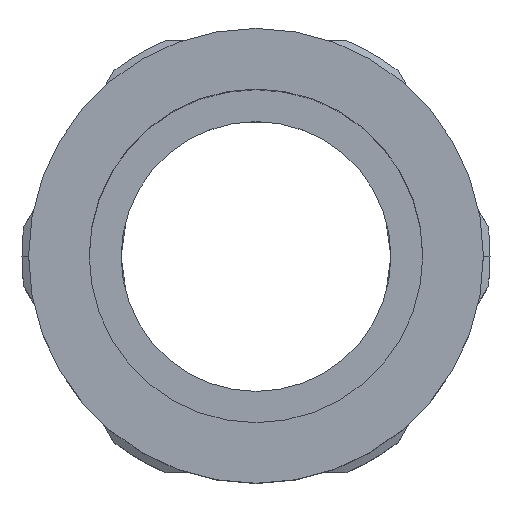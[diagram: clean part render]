
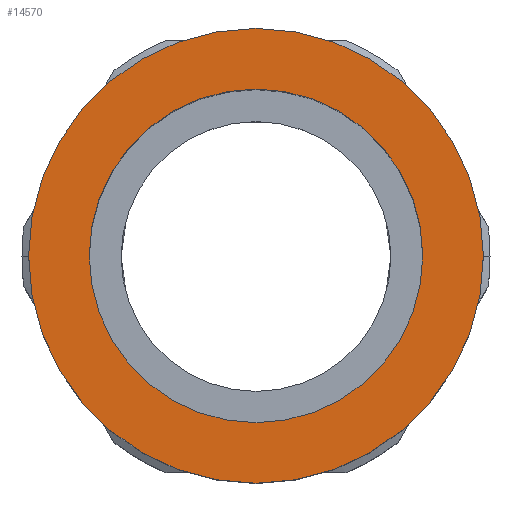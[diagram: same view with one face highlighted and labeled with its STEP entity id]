
A CAD part, top view. The second image highlights one B-rep face of the part: STEP entity #14570.
In plain terms, the highlighted planar face has unit normal (0, 0, 1) as drawn and (-1, 0, 0) by its records, which use the part's own axes.
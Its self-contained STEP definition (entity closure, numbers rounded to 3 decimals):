
#10130=CARTESIAN_POINT('',(-41.434,-18.95,0.
));
#10140=VERTEX_POINT('',#10130);
#10360=CARTESIAN_POINT('',(-41.434,18.95,0.)
);
#10370=VERTEX_POINT('',#10360);
#10400=CARTESIAN_POINT('',(-41.434,0.,
0.));
#10410=DIRECTION('',(1.,0.,0.));
#10420=DIRECTION('',(0.,-1.,0.));
#10430=AXIS2_PLACEMENT_3D('',#10400,#10410,#10420);
#10440=CIRCLE('',#10430,18.95);
#10450=CARTESIAN_POINT('',(-41.434,0.,
-18.95));
#10460=VERTEX_POINT('',#10450);
#10470=EDGE_CURVE('',#10460,#10370,#10440,.T.);
#10490=EDGE_CURVE('',#10140,#10460,#10440,.T.);
#14310=CARTESIAN_POINT('',(-41.434,17.675,0.
));
#14320=DIRECTION('',(-1.,0.,0.));
#14330=DIRECTION('',(0.,1.,0.));
#14340=AXIS2_PLACEMENT_3D('',#14310,#14320,#14330);
#14350=PLANE('',#14340);
#14360=CARTESIAN_POINT('',(-41.434,0.,0.));
#14370=DIRECTION('',(-1.,0.,0.));
#14380=DIRECTION('',(0.,0.,1.));
#14390=AXIS2_PLACEMENT_3D('',#14360,#14370,#14380);
#14400=CIRCLE('',#14390,13.9);
#14410=CARTESIAN_POINT('',(-41.434,0.,13.9)
);
#14420=VERTEX_POINT('',#14410);
#14430=CARTESIAN_POINT('',(-41.434,0.,-13.9)
);
#14440=VERTEX_POINT('',#14430);
#14450=EDGE_CURVE('',#14420,#14440,#14400,.T.);
#14460=ORIENTED_EDGE('',*,*,#14450,.F.);
#14470=EDGE_CURVE('',#14440,#14420,#14400,.T.);
#14480=ORIENTED_EDGE('',*,*,#14470,.F.);
#14490=EDGE_LOOP('',(#14480,#14460));
#14500=FACE_BOUND('',#14490,.T.);
#14510=ORIENTED_EDGE('',*,*,#10470,.F.);
#14520=EDGE_CURVE('',#10370,#10140,#10440,.T.);
#14530=ORIENTED_EDGE('',*,*,#14520,.F.);
#14540=ORIENTED_EDGE('',*,*,#10490,.F.);
#14550=EDGE_LOOP('',(#14540,#14530,#14510));
#14560=FACE_OUTER_BOUND('',#14550,.T.);
#14570=ADVANCED_FACE('',(#14500,#14560),#14350,.T.);
